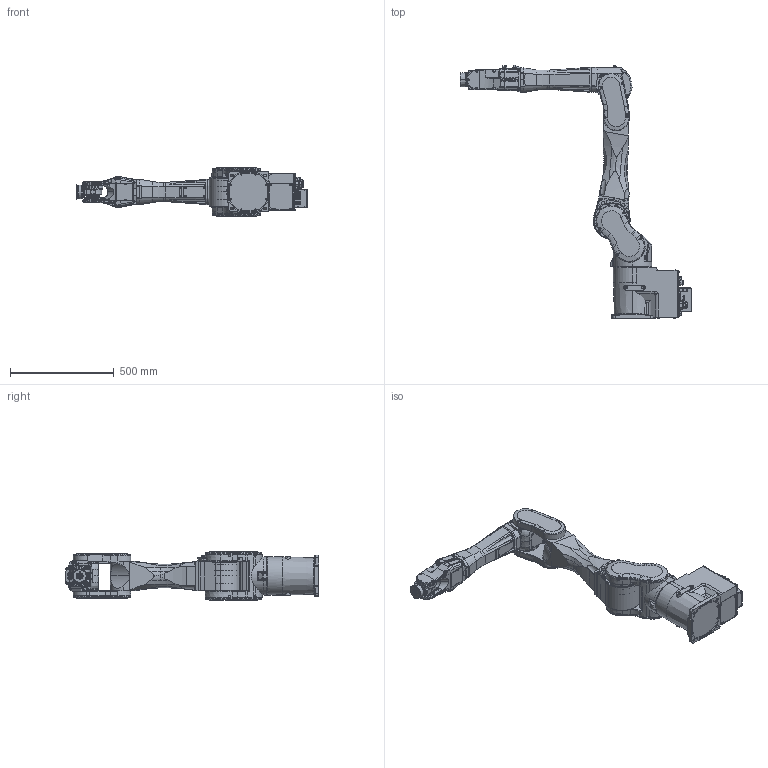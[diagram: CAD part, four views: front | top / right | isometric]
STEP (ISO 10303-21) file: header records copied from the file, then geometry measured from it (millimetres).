
FILE_DESCRIPTION (( 'STEP AP214' ), '1' );
FILE_NAME ('C8-x1401C.STEP', '2025-08-25T23:02:29', ( '' ), ( '' ), 'SwSTEP 2.0', 'SolidWorks 2020', '' );
FILE_SCHEMA (( 'AUTOMOTIVE_DESIGN' ));
Length unit declared in the file: millimetre
Products named in the file (8): J3_C8XLS__5_-3; J2_C8XLC-2_1_2_3; J4_C8XLS-4; J5_C8S-5_1_2_3_4_5; C8-x1401C; J6_C8S-6_1_2_3_4_5; J1_C8S-1_1_2_3_4_5; BASE_C8XLCR-B_1_2
Assembly tree (7 placements, depth 2):
  C8-x1401C
    BASE_C8XLCR-B_1_2
    J1_C8S-1_1_2_3_4_5
    J2_C8XLC-2_1_2_3
    J3_C8XLS__5_-3
    J4_C8XLS-4
    J5_C8S-5_1_2_3_4_5
    J6_C8S-6_1_2_3_4_5
Bounding box: 1116.5 x 1222.5 x 236 mm (x, y, z)
Volume: 22325035.8 mm3; surface area: 2055097.4 mm2
Topology: 5 solids, 10 shells, 4923 faces, 12343 edges, 7873 vertices
Faces by surface type: plane 2198, cylinder 1538, cone 660, torus 396, sphere 85, bspline 46
Entity records: 206804 total; most frequent: CARTESIAN_POINT 77302, ORIENTED_EDGE 24520, DIRECTION 21502, EDGE_CURVE 12273, AXIS2_PLACEMENT_3D 8149, VERTEX_POINT 7873, EDGE_LOOP 5473, LINE 5204
